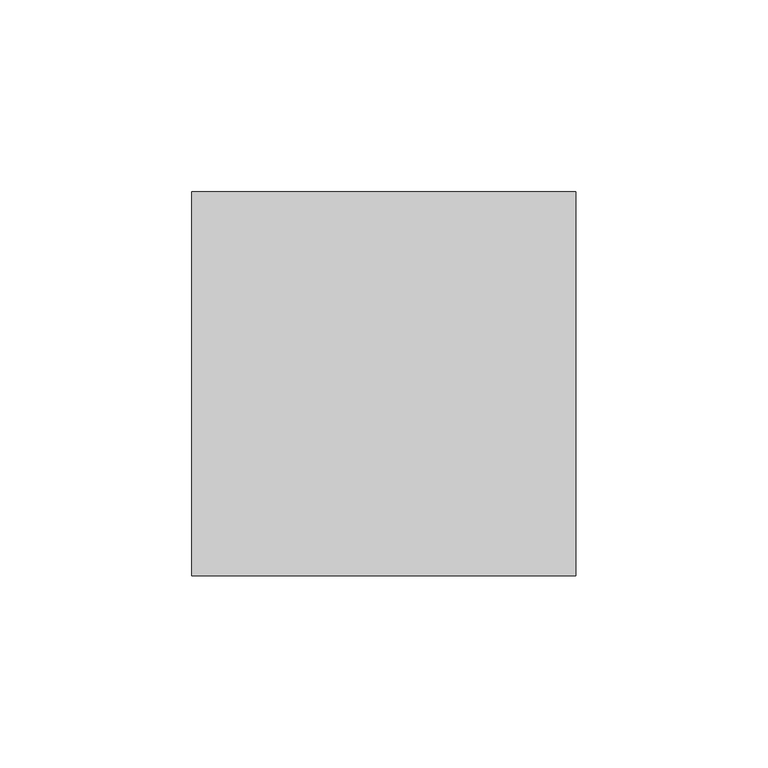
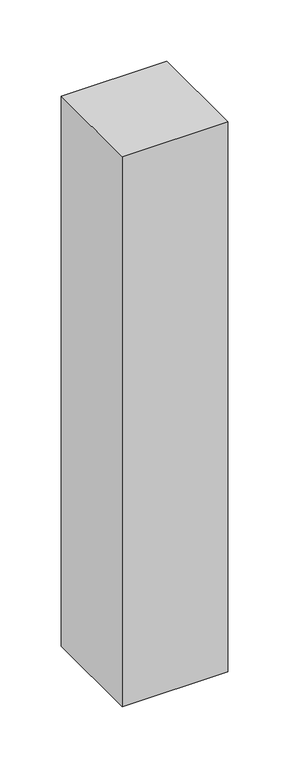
"""IFC4 building model written with IfcOpenShell, lengths in millimetres: member geometry, Montante angular cuadrilátero : Montante cuadrilátero 1."""

from ifc_helpers import new_model, si_unit, frame, origin, place, context, project, spatial, polyline, outline, extrude, source, transform, mapped, element, save


def member_9c0560e9(model_context):
    return source(origin(), model_context, "Body", "SweptSolid", [
        extrude(outline(polyline([(50.0, -50.0), (-50.0, -50.0), (-50.0, 50.0), (50.0, 50.0), (50.0, -50.0)])), frame((0.0, 0.0, -550.0), z_axis=(0.0, 0.0, 1.0), x_axis=(1.0, 0.0, 0.0)), (0.0, 0.0, 1.0), 550.0),
    ])


if __name__ == "__main__":
    model = new_model("IFC4")
    model_context = context("Model", 3, world=origin())
    ifc_project = project(units=[si_unit("LENGTHUNIT", "METRE", prefix="MILLI")], contexts=[model_context])
    site = spatial("IfcSite", under=ifc_project)
    building = spatial("IfcBuilding", under=site)
    placement = place(None, origin())
    member_shape = member_9c0560e9(model_context)
    element("IfcMember", 1, ObjectType="Montante angular cuadrilátero : Montante cuadrilátero 1", at=placement, inside=building, context=model_context, shape_type="MappedRepresentation", body=[
        mapped(member_shape, transform((0.0, 0.0, 0.0), x_axis=(1.0, 0.0, 0.0), y_axis=(0.0, 1.0, 0.0), z_axis=(0.0, 0.0, 1.0))),
    ])
    save(model, "model.ifc")
